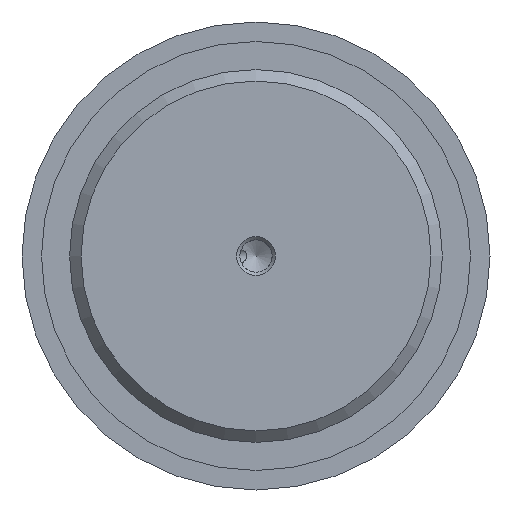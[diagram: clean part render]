
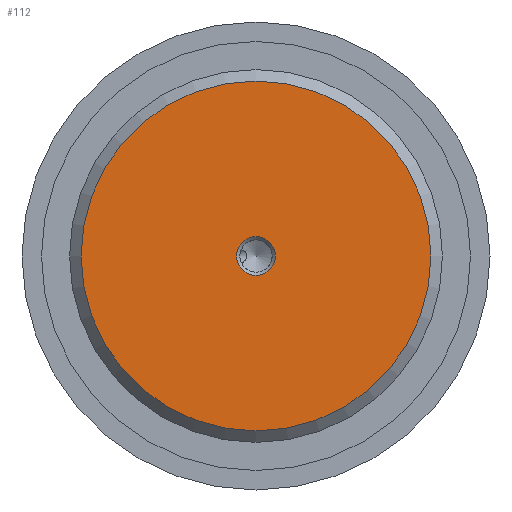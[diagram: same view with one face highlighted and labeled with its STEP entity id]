
A CAD part, front view. The second image highlights one B-rep face of the part: STEP entity #112.
In plain terms, the highlighted planar face has unit normal (0, -1, 0).
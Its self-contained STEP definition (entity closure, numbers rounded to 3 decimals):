
#112 = ADVANCED_FACE( '', ( #208, #209 ), #210, .F. );
#208 = FACE_BOUND( '', #330, .T. );
#209 = FACE_OUTER_BOUND( '', #331, .T. );
#210 = PLANE( '', #332 );
#330 = EDGE_LOOP( '', ( #652 ) );
#331 = EDGE_LOOP( '', ( #653 ) );
#332 = AXIS2_PLACEMENT_3D( '', #654, #655, #656 );
#652 = ORIENTED_EDGE( '', *, *, #874, .F. );
#653 = ORIENTED_EDGE( '', *, *, #876, .T. );
#654 = CARTESIAN_POINT( '', ( 22.423, 0., 0. ) );
#655 = DIRECTION( '', ( 0., 1., 0. ) );
#656 = DIRECTION( '', ( 0., 0., 1. ) );
#874 = EDGE_CURVE( '', #1066, #1066, #1067, .T. );
#876 = EDGE_CURVE( '', #1070, #1070, #1071, .T. );
#1066 = VERTEX_POINT( '', #1479 );
#1067 = CIRCLE( '', #1480, 2.5 );
#1070 = VERTEX_POINT( '', #1483 );
#1071 = CIRCLE( '', #1484, 22.423 );
#1479 = CARTESIAN_POINT( '', ( 0., 0., -2.5 ) );
#1480 = AXIS2_PLACEMENT_3D( '', #1619, #1620, #1621 );
#1483 = CARTESIAN_POINT( '', ( 0., 0., -22.423 ) );
#1484 = AXIS2_PLACEMENT_3D( '', #1625, #1626, #1627 );
#1619 = CARTESIAN_POINT( '', ( 0., 0., 0. ) );
#1620 = DIRECTION( '', ( 0., -1., 0. ) );
#1621 = DIRECTION( '', ( 0., 0., -1. ) );
#1625 = CARTESIAN_POINT( '', ( 0., 0., 0. ) );
#1626 = DIRECTION( '', ( 0., -1., 0. ) );
#1627 = DIRECTION( '', ( 0., 0., -1. ) );
